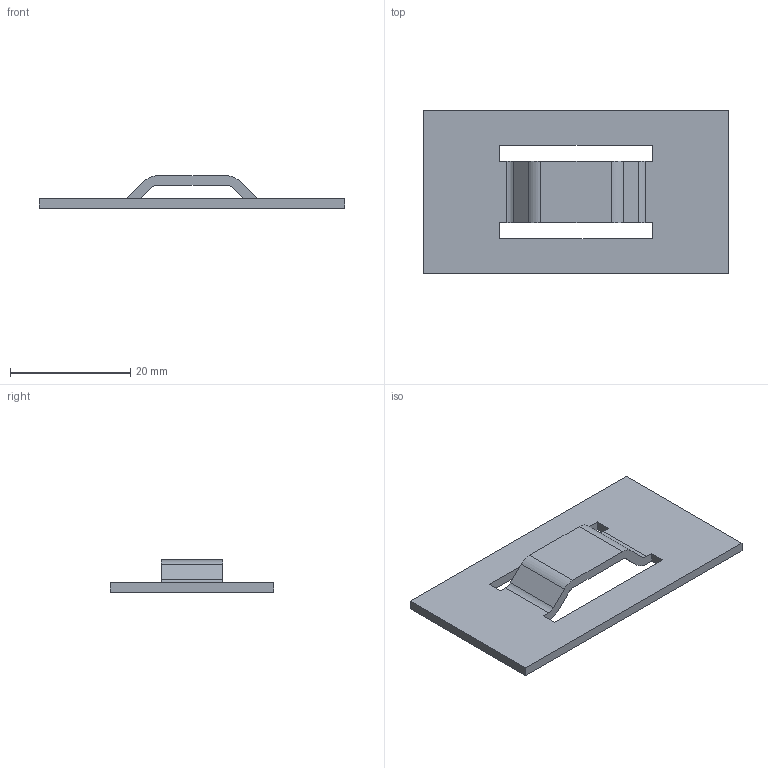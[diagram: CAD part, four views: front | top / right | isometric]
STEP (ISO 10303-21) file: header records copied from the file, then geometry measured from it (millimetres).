
FILE_DESCRIPTION((''),'1');
FILE_NAME('C:/Users/ericfrey/Desktop/BRIDGE.stp', '2016-01-05T21:59:40',(''), (''), 'KCM Version 1.1.1442.0', 'Kubotek KeyCreator', '');
FILE_SCHEMA(('AUTOMOTIVE_DESIGN'));
Length unit declared in the file: inch
Bounding box: 50.8 x 27.23 x 5.38 mm (x, y, z)
Volume: 2009.3 mm3; surface area: 2983.1 mm2
Topology: 1 solids, 1 shells, 28 faces, 84 edges, 56 vertices
Faces by surface type: plane 20, cylinder 8
Entity records: 977 total; most frequent: CARTESIAN_POINT 169, ORIENTED_EDGE 168, DIRECTION 158, EDGE_CURVE 84, VECTOR 68, LINE 68, VERTEX_POINT 56, AXIS2_PLACEMENT_3D 45
